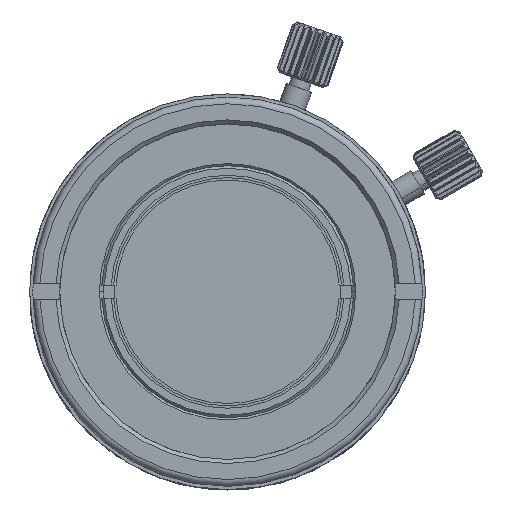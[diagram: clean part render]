
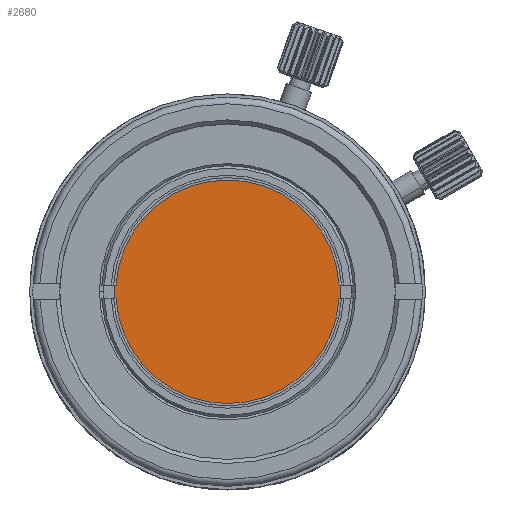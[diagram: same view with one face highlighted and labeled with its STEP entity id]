
A CAD part, top view. The second image highlights one B-rep face of the part: STEP entity #2680.
In plain terms, the highlighted planar face has unit normal (0, 0, 1).
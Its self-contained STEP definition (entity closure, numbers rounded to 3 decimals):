
#2680 = ADVANCED_FACE ( 'NONE', ( #40906 ), #28949, .F. ) ;
#2747 = CIRCLE ( 'NONE', #21456, 8.447 ) ;
#4171 = AXIS2_PLACEMENT_3D ( 'NONE', #43442, #7131, #32576 ) ;
#7131 = DIRECTION ( 'NONE',  ( 0., 0., -1. ) ) ;
#7798 = ORIENTED_EDGE ( 'NONE', *, *, #16441, .F. ) ;
#9763 = DIRECTION ( 'NONE',  ( 0., 0., -1. ) ) ;
#16441 = EDGE_CURVE ( 'NONE', #26976, #29520, #2747, .T. ) ;
#18098 = EDGE_CURVE ( 'NONE', #29520, #26976, #42018, .T. ) ;
#19110 = CARTESIAN_POINT ( 'NONE',  ( -8.447, 0., 25.88 ) ) ;
#20285 = DIRECTION ( 'NONE',  ( 0., 0., -1. ) ) ;
#20415 = EDGE_LOOP ( 'NONE', ( #45851, #7798 ) ) ;
#21409 = CARTESIAN_POINT ( 'NONE',  ( 8.447, 0., 25.88 ) ) ;
#21456 = AXIS2_PLACEMENT_3D ( 'NONE', #42112, #20285, #45769 ) ;
#26976 = VERTEX_POINT ( 'NONE', #21409 ) ;
#28949 = PLANE ( 'NONE',  #4171 ) ;
#29520 = VERTEX_POINT ( 'NONE', #19110 ) ;
#31556 = CARTESIAN_POINT ( 'NONE',  ( 0., 0., 25.88 ) ) ;
#32576 = DIRECTION ( 'NONE',  ( -1., 0., 0. ) ) ;
#35218 = DIRECTION ( 'NONE',  ( -1., 0., 0. ) ) ;
#35795 = AXIS2_PLACEMENT_3D ( 'NONE', #31556, #9763, #35218 ) ;
#40906 = FACE_OUTER_BOUND ( 'NONE', #20415, .T. ) ;
#42018 = CIRCLE ( 'NONE', #35795, 8.447 ) ;
#42112 = CARTESIAN_POINT ( 'NONE',  ( 0., 0., 25.88 ) ) ;
#43442 = CARTESIAN_POINT ( 'NONE',  ( 0., 0., 25.88 ) ) ;
#45769 = DIRECTION ( 'NONE',  ( -1., 0., 0. ) ) ;
#45851 = ORIENTED_EDGE ( 'NONE', *, *, #18098, .F. ) ;
